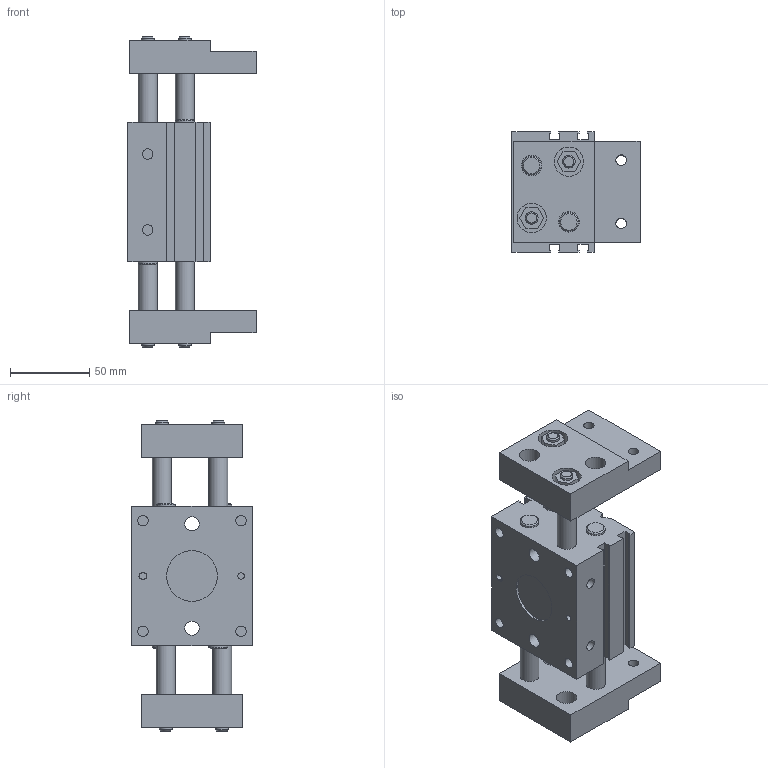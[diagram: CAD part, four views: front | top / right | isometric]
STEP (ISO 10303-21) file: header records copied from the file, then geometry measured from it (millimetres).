
FILE_DESCRIPTION((''),'2;1');
FILE_NAME('I:\Area Tecnica\Documenti\A-Mauro\_Inventor\LIBRERIE\6311\6311_#_D_#\631125D.stp','2007-02-24T10:51:11',('maffial1'),(''),'Autodesk Inventor 11','Autodesk Inventor 11','');
FILE_SCHEMA(('AUTOMOTIVE_DESIGN { 1 0 10303 214 1 1 1 1 }'));
Length unit declared in the file: millimetre
Products named in the file (3): 631125D; CORPO Ø25 D; DITO Ø25 D
Assembly tree (3 placements, depth 2):
  631125D
    CORPO Ø25 D
    DITO Ø25 D  x2
Bounding box: 81 x 76 x 196 mm (x, y, z)
Volume: 509839 mm3; surface area: 109600.4 mm2
Topology: 3 solids, 3 shells, 159 faces, 380 edges, 254 vertices
Faces by surface type: plane 101, bspline 34, cylinder 16, cone 8
Full cylindrical faces by diameter (mm): 4 x1, 8 x4, 12 x8, 32 x1
Entity records: 3542 total; most frequent: CARTESIAN_POINT 857, DIRECTION 502, ORIENTED_EDGE 496, EDGE_CURVE 248, VECTOR 188, LINE 188, EDGE_LOOP 186, VERTEX_POINT 184
